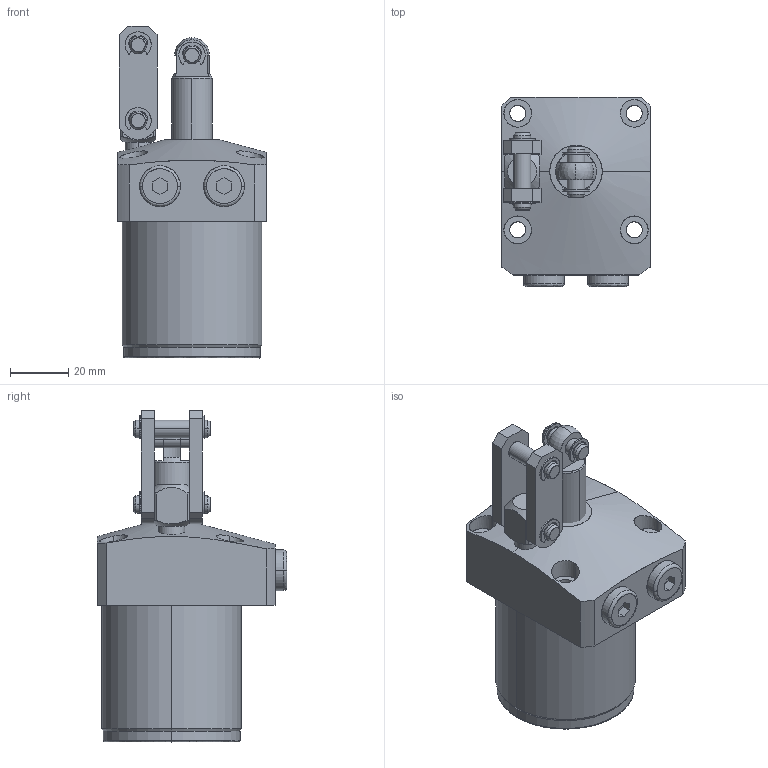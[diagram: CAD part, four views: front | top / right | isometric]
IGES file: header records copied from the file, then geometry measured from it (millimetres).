
Start section: SolidWorks IGES file using analytic representation for surfaces
Global section: file name: C:\Documents and Settings\nijil\My Documents\Clasys1\LQ Series\48\0401-0103.IGS; native system: SolidWorks 2010; preprocessor: SolidWorks 2010; author: nijil; date: 130723.125359; units: millimetre
Bounding box: 51 x 65 x 114 mm (x, y, z)
Surface area: 26799.9 mm2 (no closed solid volume)
Topology: 0 solids, 0 shells, 256 faces, 4293 edges, 4288 vertices
Faces by surface type: revolution 137, bspline 119
